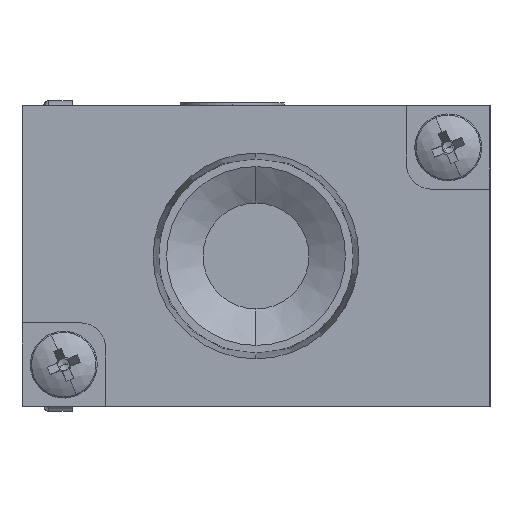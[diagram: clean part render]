
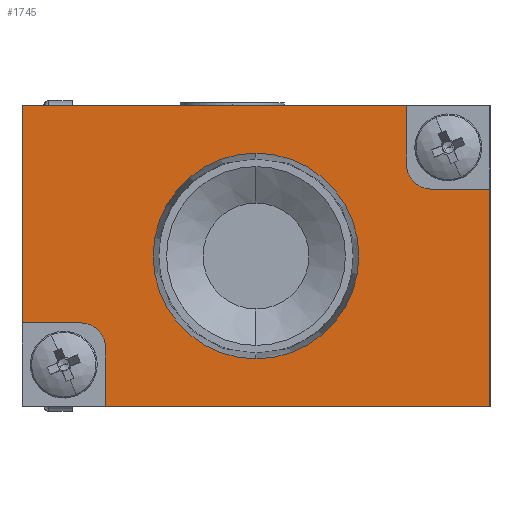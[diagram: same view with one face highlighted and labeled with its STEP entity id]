
A CAD part, left-side view. The second image highlights one B-rep face of the part: STEP entity #1745.
In plain terms, the highlighted planar face has unit normal (-1, 0, 0) as drawn and (1, 0, 0) by its records, which use the part's own axes.
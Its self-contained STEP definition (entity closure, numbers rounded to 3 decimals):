
#35 = DIRECTION ( 'NONE',  ( 0., 0., 1. ) ) ;
#118 = EDGE_CURVE ( 'NONE', #2838, #6658, #6922, .T. ) ;
#241 = CIRCLE ( 'NONE', #2811, 6.154 ) ;
#297 = VERTEX_POINT ( 'NONE', #819 ) ;
#392 = EDGE_CURVE ( 'NONE', #6445, #7588, #241, .T. ) ;
#537 = CARTESIAN_POINT ( 'NONE',  ( 19., 0., 6.154 ) ) ;
#819 = CARTESIAN_POINT ( 'NONE',  ( 19., -14., 9. ) ) ;
#852 = CARTESIAN_POINT ( 'NONE',  ( 19., -14., -4. ) ) ;
#1004 = ORIENTED_EDGE ( 'NONE', *, *, #1036, .T. ) ;
#1036 = EDGE_CURVE ( 'NONE', #1303, #5208, #7336, .T. ) ;
#1269 = CARTESIAN_POINT ( 'NONE',  ( 19., 9., 9. ) ) ;
#1303 = VERTEX_POINT ( 'NONE', #4177 ) ;
#1306 = CARTESIAN_POINT ( 'NONE',  ( 19., -9., -9. ) ) ;
#1344 = VECTOR ( 'NONE', #5515, 1000. ) ;
#1422 = CARTESIAN_POINT ( 'NONE',  ( 19., 0., -6.154 ) ) ;
#1472 = CARTESIAN_POINT ( 'NONE',  ( 19., 14., -9. ) ) ;
#1563 = VECTOR ( 'NONE', #6621, 1000. ) ;
#1574 = DIRECTION ( 'NONE',  ( 0., 0., 1. ) ) ;
#1601 = VERTEX_POINT ( 'NONE', #1789 ) ;
#1685 = DIRECTION ( 'NONE',  ( 1., 0., 0. ) ) ;
#1740 = ORIENTED_EDGE ( 'NONE', *, *, #6518, .F. ) ;
#1745 = ADVANCED_FACE ( 'NONE', ( #6183, #5649 ), #6581, .F. ) ;
#1788 = CARTESIAN_POINT ( 'NONE',  ( 19., -9., -9. ) ) ;
#1789 = CARTESIAN_POINT ( 'NONE',  ( 19., -14., -4. ) ) ;
#1834 = ORIENTED_EDGE ( 'NONE', *, *, #392, .F. ) ;
#1911 = CIRCLE ( 'NONE', #4734, 6.154 ) ;
#1952 = EDGE_LOOP ( 'NONE', ( #8577, #1740, #7363, #3980, #8042, #7299, #5875, #1004, #5432, #4068 ) ) ;
#1981 = DIRECTION ( 'NONE',  ( -1., 0., 0. ) ) ;
#2037 = CARTESIAN_POINT ( 'NONE',  ( 19., -10.5, -5.5 ) ) ;
#2131 = VERTEX_POINT ( 'NONE', #7668 ) ;
#2176 = AXIS2_PLACEMENT_3D ( 'NONE', #4550, #5227, #35 ) ;
#2415 = VERTEX_POINT ( 'NONE', #1788 ) ;
#2585 = DIRECTION ( 'NONE',  ( 0., 0., 1. ) ) ;
#2715 = CARTESIAN_POINT ( 'NONE',  ( 19., 14., 4. ) ) ;
#2722 = CARTESIAN_POINT ( 'NONE',  ( 19., 10.5, 5.5 ) ) ;
#2754 = AXIS2_PLACEMENT_3D ( 'NONE', #2037, #1981, #2585 ) ;
#2811 = AXIS2_PLACEMENT_3D ( 'NONE', #4329, #1685, #7041 ) ;
#2817 = EDGE_CURVE ( 'NONE', #7588, #6445, #1911, .T. ) ;
#2838 = VERTEX_POINT ( 'NONE', #1472 ) ;
#2947 = DIRECTION ( 'NONE',  ( 0., 0., -1. ) ) ;
#3100 = LINE ( 'NONE', #2715, #3418 ) ;
#3148 = VERTEX_POINT ( 'NONE', #3893 ) ;
#3418 = VECTOR ( 'NONE', #6050, 1000. ) ;
#3789 = CARTESIAN_POINT ( 'NONE',  ( 19., -14., -9. ) ) ;
#3845 = VECTOR ( 'NONE', #2947, 1000. ) ;
#3893 = CARTESIAN_POINT ( 'NONE',  ( 19., -10.5, -4. ) ) ;
#3980 = ORIENTED_EDGE ( 'NONE', *, *, #8453, .F. ) ;
#4068 = ORIENTED_EDGE ( 'NONE', *, *, #5588, .T. ) ;
#4177 = CARTESIAN_POINT ( 'NONE',  ( 19., 10.5, 4. ) ) ;
#4184 = DIRECTION ( 'NONE',  ( 0., 0., -1. ) ) ;
#4326 = LINE ( 'NONE', #852, #1344 ) ;
#4329 = CARTESIAN_POINT ( 'NONE',  ( 19., 0., 0. ) ) ;
#4378 = CARTESIAN_POINT ( 'NONE',  ( 19., 14., 4. ) ) ;
#4516 = EDGE_CURVE ( 'NONE', #5475, #5208, #7398, .T. ) ;
#4550 = CARTESIAN_POINT ( 'NONE',  ( 19., 0., 0. ) ) ;
#4681 = EDGE_CURVE ( 'NONE', #2415, #2838, #7922, .T. ) ;
#4734 = AXIS2_PLACEMENT_3D ( 'NONE', #4782, #6137, #4184 ) ;
#4782 = CARTESIAN_POINT ( 'NONE',  ( 19., 0., 0. ) ) ;
#4795 = EDGE_CURVE ( 'NONE', #297, #1601, #7393, .T. ) ;
#5024 = CARTESIAN_POINT ( 'NONE',  ( 19., 9., 5.5 ) ) ;
#5061 = DIRECTION ( 'NONE',  ( 0., 1., 0. ) ) ;
#5092 = LINE ( 'NONE', #1306, #8553 ) ;
#5208 = VERTEX_POINT ( 'NONE', #5024 ) ;
#5227 = DIRECTION ( 'NONE',  ( -1., 0., 0. ) ) ;
#5432 = ORIENTED_EDGE ( 'NONE', *, *, #4516, .F. ) ;
#5441 = DIRECTION ( 'NONE',  ( -1., 0., 0. ) ) ;
#5475 = VERTEX_POINT ( 'NONE', #1269 ) ;
#5515 = DIRECTION ( 'NONE',  ( 0., -1., 0. ) ) ;
#5588 = EDGE_CURVE ( 'NONE', #5475, #297, #7290, .T. ) ;
#5649 = FACE_OUTER_BOUND ( 'NONE', #1952, .T. ) ;
#5726 = ORIENTED_EDGE ( 'NONE', *, *, #2817, .F. ) ;
#5875 = ORIENTED_EDGE ( 'NONE', *, *, #6364, .F. ) ;
#5946 = DIRECTION ( 'NONE',  ( 0., -1., 0. ) ) ;
#6050 = DIRECTION ( 'NONE',  ( 0., 1., 0. ) ) ;
#6060 = DIRECTION ( 'NONE',  ( 0., 0., 1. ) ) ;
#6137 = DIRECTION ( 'NONE',  ( 1., 0., 0. ) ) ;
#6183 = FACE_BOUND ( 'NONE', #7846, .T. ) ;
#6364 = EDGE_CURVE ( 'NONE', #1303, #6658, #3100, .T. ) ;
#6445 = VERTEX_POINT ( 'NONE', #1422 ) ;
#6509 = VECTOR ( 'NONE', #1574, 1000. ) ;
#6518 = EDGE_CURVE ( 'NONE', #3148, #1601, #4326, .T. ) ;
#6529 = AXIS2_PLACEMENT_3D ( 'NONE', #2722, #5441, #6060 ) ;
#6581 = PLANE ( 'NONE',  #2176 ) ;
#6621 = DIRECTION ( 'NONE',  ( 0., 0., -1. ) ) ;
#6658 = VERTEX_POINT ( 'NONE', #4378 ) ;
#6851 = CIRCLE ( 'NONE', #2754, 1.5 ) ;
#6922 = LINE ( 'NONE', #7584, #6509 ) ;
#6946 = CARTESIAN_POINT ( 'NONE',  ( 19., 9., 9. ) ) ;
#7041 = DIRECTION ( 'NONE',  ( 0., 0., -1. ) ) ;
#7074 = VECTOR ( 'NONE', #5946, 1000. ) ;
#7290 = LINE ( 'NONE', #7919, #7074 ) ;
#7299 = ORIENTED_EDGE ( 'NONE', *, *, #118, .T. ) ;
#7336 = CIRCLE ( 'NONE', #6529, 1.5 ) ;
#7363 = ORIENTED_EDGE ( 'NONE', *, *, #7619, .T. ) ;
#7393 = LINE ( 'NONE', #7880, #1563 ) ;
#7398 = LINE ( 'NONE', #6946, #3845 ) ;
#7584 = CARTESIAN_POINT ( 'NONE',  ( 19., 14., 9. ) ) ;
#7588 = VERTEX_POINT ( 'NONE', #537 ) ;
#7619 = EDGE_CURVE ( 'NONE', #3148, #2131, #6851, .T. ) ;
#7668 = CARTESIAN_POINT ( 'NONE',  ( 19., -9., -5.5 ) ) ;
#7846 = EDGE_LOOP ( 'NONE', ( #1834, #5726 ) ) ;
#7880 = CARTESIAN_POINT ( 'NONE',  ( 19., -14., 9. ) ) ;
#7919 = CARTESIAN_POINT ( 'NONE',  ( 19., -14., 9. ) ) ;
#7922 = LINE ( 'NONE', #3789, #8031 ) ;
#8019 = DIRECTION ( 'NONE',  ( 0., 0., 1. ) ) ;
#8031 = VECTOR ( 'NONE', #5061, 1000. ) ;
#8042 = ORIENTED_EDGE ( 'NONE', *, *, #4681, .T. ) ;
#8453 = EDGE_CURVE ( 'NONE', #2415, #2131, #5092, .T. ) ;
#8553 = VECTOR ( 'NONE', #8019, 1000. ) ;
#8577 = ORIENTED_EDGE ( 'NONE', *, *, #4795, .T. ) ;
